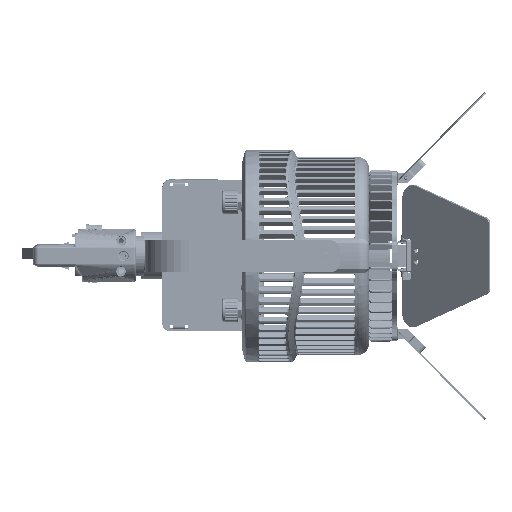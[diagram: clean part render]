
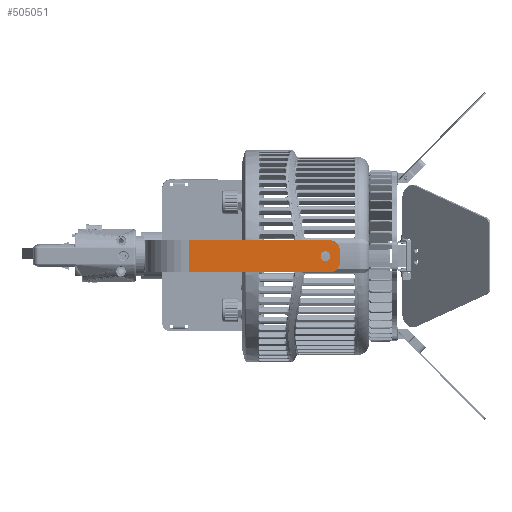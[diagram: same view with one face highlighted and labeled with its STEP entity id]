
A CAD part, left-side view. The second image highlights one B-rep face of the part: STEP entity #505051.
In plain terms, the highlighted planar face has unit normal (-1, 0, -0.003) as drawn and (1, 0, 0) by its records, which use the part's own axes.
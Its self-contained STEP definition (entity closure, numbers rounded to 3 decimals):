
#45593 = CARTESIAN_POINT ( 'NONE',  ( 73.1, -4., 2. ) ) ;
#48370 = DIRECTION ( 'NONE',  ( 0., 0., 1. ) ) ;
#49839 = EDGE_CURVE ( 'NONE', #506463, #436720, #654173, .T. ) ;
#54322 = ORIENTED_EDGE ( 'NONE', *, *, #59356, .T. ) ;
#59356 = EDGE_CURVE ( 'NONE', #366324, #574937, #301944, .T. ) ;
#67294 = VERTEX_POINT ( 'NONE', #45593 ) ;
#81058 = VERTEX_POINT ( 'NONE', #214328 ) ;
#85600 = EDGE_CURVE ( 'NONE', #81058, #67294, #549265, .T. ) ;
#122256 = LINE ( 'NONE', #567970, #733575 ) ;
#123451 = PLANE ( 'NONE',  #232808 ) ;
#130664 = EDGE_CURVE ( 'NONE', #67294, #436720, #413140, .T. ) ;
#140810 = EDGE_LOOP ( 'NONE', ( #567823, #643945 ) ) ;
#162980 = DIRECTION ( 'NONE',  ( 0., 0., 1. ) ) ;
#163396 = ORIENTED_EDGE ( 'NONE', *, *, #130664, .T. ) ;
#175117 = CARTESIAN_POINT ( 'NONE',  ( 73.1, 10., -4. ) ) ;
#176751 = AXIS2_PLACEMENT_3D ( 'NONE', #202838, #452486, #694068 ) ;
#200951 = DIRECTION ( 'NONE',  ( 0., 0., -1. ) ) ;
#202397 = AXIS2_PLACEMENT_3D ( 'NONE', #483489, #682861, #602188 ) ;
#202838 = CARTESIAN_POINT ( 'NONE',  ( 73.1, 0., -7. ) ) ;
#214328 = CARTESIAN_POINT ( 'NONE',  ( 73.1, 4., 2. ) ) ;
#216831 = AXIS2_PLACEMENT_3D ( 'NONE', #704229, #254242, #200951 ) ;
#217270 = EDGE_CURVE ( 'NONE', #506463, #366324, #122256, .T. ) ;
#232808 = AXIS2_PLACEMENT_3D ( 'NONE', #327688, #753524, #569198 ) ;
#234276 = CARTESIAN_POINT ( 'NONE',  ( 73.1, 10., 2. ) ) ;
#254242 = DIRECTION ( 'NONE',  ( 1., 0., 0. ) ) ;
#265840 = EDGE_LOOP ( 'NONE', ( #287776, #505955, #54322, #677725, #526872, #163396 ) ) ;
#287776 = ORIENTED_EDGE ( 'NONE', *, *, #49839, .F. ) ;
#301944 = LINE ( 'NONE', #175117, #488327 ) ;
#327688 = CARTESIAN_POINT ( 'NONE',  ( 73.1, 10., -120.5 ) ) ;
#333851 = CIRCLE ( 'NONE', #176751, 3.1 ) ;
#355459 = DIRECTION ( 'NONE',  ( 0., 0., -1. ) ) ;
#366324 = VERTEX_POINT ( 'NONE', #679439 ) ;
#388724 = EDGE_CURVE ( 'NONE', #732379, #636393, #594307, .T. ) ;
#389015 = CARTESIAN_POINT ( 'NONE',  ( 73.1, 0., -3.9 ) ) ;
#397784 = AXIS2_PLACEMENT_3D ( 'NONE', #670673, #416933, #355459 ) ;
#413140 = CIRCLE ( 'NONE', #216831, 6. ) ;
#416933 = DIRECTION ( 'NONE',  ( 1., 0., 0. ) ) ;
#436720 = VERTEX_POINT ( 'NONE', #512846 ) ;
#452486 = DIRECTION ( 'NONE',  ( -1., 0., 0. ) ) ;
#457519 = EDGE_CURVE ( 'NONE', #636393, #732379, #333851, .T. ) ;
#483489 = CARTESIAN_POINT ( 'NONE',  ( 73.1, 0., -7. ) ) ;
#488327 = VECTOR ( 'NONE', #162980, 1000. ) ;
#505051 = ADVANCED_FACE ( 'NONE', ( #577297, #684115 ), #123451, .T. ) ;
#505955 = ORIENTED_EDGE ( 'NONE', *, *, #217270, .T. ) ;
#506463 = VERTEX_POINT ( 'NONE', #613768 ) ;
#512846 = CARTESIAN_POINT ( 'NONE',  ( 73.1, -10., -4. ) ) ;
#526872 = ORIENTED_EDGE ( 'NONE', *, *, #85600, .T. ) ;
#549265 = LINE ( 'NONE', #234276, #680702 ) ;
#567823 = ORIENTED_EDGE ( 'NONE', *, *, #388724, .T. ) ;
#567970 = CARTESIAN_POINT ( 'NONE',  ( 73.1, 10., -93. ) ) ;
#569198 = DIRECTION ( 'NONE',  ( 0., 0., -1. ) ) ;
#574937 = VERTEX_POINT ( 'NONE', #627395 ) ;
#577297 = FACE_BOUND ( 'NONE', #140810, .T. ) ;
#594307 = CIRCLE ( 'NONE', #202397, 3.1 ) ;
#602188 = DIRECTION ( 'NONE',  ( 0., 0., 1. ) ) ;
#613768 = CARTESIAN_POINT ( 'NONE',  ( 73.1, -10., -93. ) ) ;
#621442 = DIRECTION ( 'NONE',  ( 0., 1., 0. ) ) ;
#627395 = CARTESIAN_POINT ( 'NONE',  ( 73.1, 10., -4. ) ) ;
#636393 = VERTEX_POINT ( 'NONE', #746507 ) ;
#643945 = ORIENTED_EDGE ( 'NONE', *, *, #457519, .T. ) ;
#654173 = LINE ( 'NONE', #788984, #658749 ) ;
#658749 = VECTOR ( 'NONE', #48370, 1000. ) ;
#670673 = CARTESIAN_POINT ( 'NONE',  ( 73.1, 4., -4. ) ) ;
#677725 = ORIENTED_EDGE ( 'NONE', *, *, #679045, .T. ) ;
#679045 = EDGE_CURVE ( 'NONE', #574937, #81058, #750653, .T. ) ;
#679439 = CARTESIAN_POINT ( 'NONE',  ( 73.1, 10., -93. ) ) ;
#680702 = VECTOR ( 'NONE', #798888, 1000. ) ;
#682861 = DIRECTION ( 'NONE',  ( -1., 0., 0. ) ) ;
#684115 = FACE_OUTER_BOUND ( 'NONE', #265840, .T. ) ;
#694068 = DIRECTION ( 'NONE',  ( 0., 0., 1. ) ) ;
#704229 = CARTESIAN_POINT ( 'NONE',  ( 73.1, -4., -4. ) ) ;
#732379 = VERTEX_POINT ( 'NONE', #389015 ) ;
#733575 = VECTOR ( 'NONE', #621442, 1000. ) ;
#746507 = CARTESIAN_POINT ( 'NONE',  ( 73.1, 0., -10.1 ) ) ;
#750653 = CIRCLE ( 'NONE', #397784, 6. ) ;
#753524 = DIRECTION ( 'NONE',  ( 1., 0., 0. ) ) ;
#788984 = CARTESIAN_POINT ( 'NONE',  ( 73.1, -10., -120.5 ) ) ;
#798888 = DIRECTION ( 'NONE',  ( 0., -1., 0. ) ) ;
